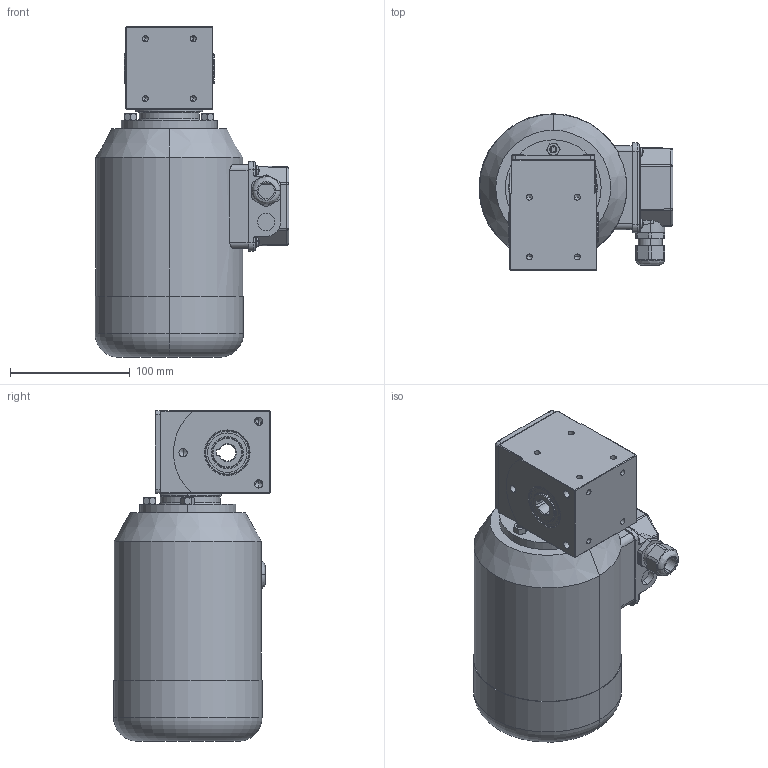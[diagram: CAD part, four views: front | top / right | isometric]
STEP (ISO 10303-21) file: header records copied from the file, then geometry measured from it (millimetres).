
FILE_DESCRIPTION (( 'STEP AP214' ), '1' );
FILE_NAME ('SN14H_180W_Drehstrom-Motor_A.STEP', '2022-08-01T09:04:42', ( '' ), ( '' ), 'SwSTEP 2.0', 'SolidWorks 2021', '' );
FILE_SCHEMA (( 'AUTOMOTIVE_DESIGN' ));
Length unit declared in the file: millimetre
Products named in the file (10): SN14H_180W_Drehstrom-Motor_A; 03BH-W-002_3D-Export; hexa csunk flathd screw_iso_ISO 14581 M5x12x12-C; 14H-G-001_3D-Export; NBR_WDR_25x37x7; 03-M-269 I 180W_1400Upm; socket set screw flat point_iso_ISO 4026 - M6 x 20-C; hex nut style 1 gradeab_iso_ISO - 4032 - M6 - D - C; 04B-D-003; SN14H_3D-Export
Assembly tree (17 placements, depth 3):
  SN14H_180W_Drehstrom-Motor_A
    SN14H_3D-Export
      14H-G-001_3D-Export
      04B-D-003
      03BH-W-002_3D-Export
      NBR_WDR_25x37x7  x2
      hexa csunk flathd screw_iso_ISO 14581 M5x12x12-C  x4
      socket set screw flat point_iso_ISO 4026 - M6 x 20-C  x3
      hex nut style 1 gradeab_iso_ISO - 4032 - M6 - D - C  x3
    03-M-269 I 180W_1400Upm
Bounding box: 162 x 131 x 276 mm (x, y, z)
Volume: 2767494 mm3; surface area: 216472.9 mm2
Topology: 18 solids, 18 shells, 919 faces, 2369 edges, 1468 vertices
Faces by surface type: cylinder 301, plane 284, cone 232, bspline 95, torus 7
Entity records: 25480 total; most frequent: CARTESIAN_POINT 8123, ORIENTED_EDGE 3714, DIRECTION 3195, EDGE_CURVE 1857, AXIS2_PLACEMENT_3D 1190, VERTEX_POINT 1190, VECTOR 815, LINE 815
